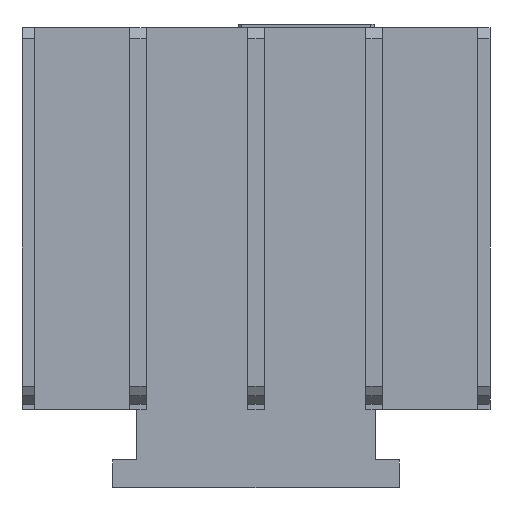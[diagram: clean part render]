
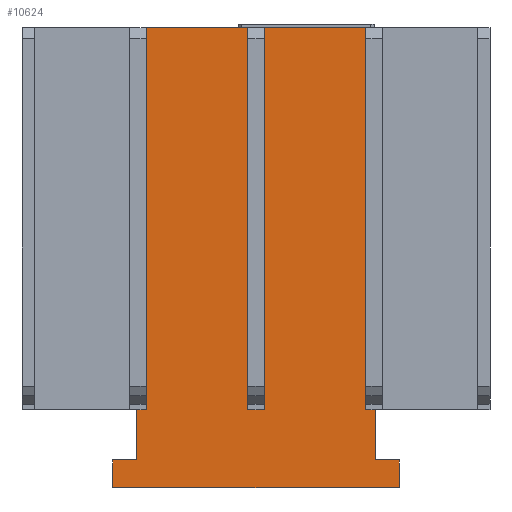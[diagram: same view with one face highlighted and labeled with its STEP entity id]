
A CAD part, front view. The second image highlights one B-rep face of the part: STEP entity #10624.
In plain terms, the highlighted planar face has unit normal (0, -1, 0).
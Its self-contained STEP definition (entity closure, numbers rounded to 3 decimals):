
#85 = EDGE_CURVE ( 'NONE', #4680, #3809, #4770, .T. ) ;
#125 = PLANE ( 'NONE',  #5802 ) ;
#131 = LINE ( 'NONE', #2143, #6633 ) ;
#174 = VECTOR ( 'NONE', #10275, 1000. ) ;
#199 = LINE ( 'NONE', #9957, #8092 ) ;
#243 = ORIENTED_EDGE ( 'NONE', *, *, #1302, .F. ) ;
#273 = ORIENTED_EDGE ( 'NONE', *, *, #3200, .F. ) ;
#341 = ORIENTED_EDGE ( 'NONE', *, *, #2364, .T. ) ;
#391 = CARTESIAN_POINT ( 'NONE',  ( 22.15, -18.658, -5.947 ) ) ;
#607 = EDGE_CURVE ( 'NONE', #10317, #9287, #4048, .T. ) ;
#642 = ORIENTED_EDGE ( 'NONE', *, *, #2946, .T. ) ;
#696 = VECTOR ( 'NONE', #10674, 1000. ) ;
#1032 = VERTEX_POINT ( 'NONE', #1633 ) ;
#1257 = EDGE_CURVE ( 'NONE', #6413, #10317, #199, .T. ) ;
#1277 = VERTEX_POINT ( 'NONE', #3793 ) ;
#1302 = EDGE_CURVE ( 'NONE', #11424, #9904, #5976, .T. ) ;
#1314 = VECTOR ( 'NONE', #5564, 1000. ) ;
#1336 = DIRECTION ( 'NONE',  ( 1., 0., 0. ) ) ;
#1370 = EDGE_CURVE ( 'NONE', #3809, #2092, #10061, .T. ) ;
#1410 = DIRECTION ( 'NONE',  ( -1., 0., 0. ) ) ;
#1426 = DIRECTION ( 'NONE',  ( 0., 0., -1. ) ) ;
#1469 = VECTOR ( 'NONE', #4100, 1000. ) ;
#1633 = CARTESIAN_POINT ( 'NONE',  ( 31.25, -18.658, -5.947 ) ) ;
#1707 = VERTEX_POINT ( 'NONE', #8796 ) ;
#1724 = LINE ( 'NONE', #4833, #9466 ) ;
#1871 = VECTOR ( 'NONE', #10602, 1000. ) ;
#1937 = LINE ( 'NONE', #8294, #6456 ) ;
#2040 = ORIENTED_EDGE ( 'NONE', *, *, #4414, .T. ) ;
#2092 = VERTEX_POINT ( 'NONE', #4876 ) ;
#2143 = CARTESIAN_POINT ( 'NONE',  ( 32.1, -18.658, -5.947 ) ) ;
#2184 = CARTESIAN_POINT ( 'NONE',  ( 10.7, -18.658, -5.947 ) ) ;
#2261 = LINE ( 'NONE', #8915, #696 ) ;
#2363 = CARTESIAN_POINT ( 'NONE',  ( 32.1, -18.658, -5.947 ) ) ;
#2364 = EDGE_CURVE ( 'NONE', #10206, #1707, #1724, .T. ) ;
#2382 = EDGE_CURVE ( 'NONE', #1277, #10206, #9340, .T. ) ;
#2491 = FACE_OUTER_BOUND ( 'NONE', #4047, .T. ) ;
#2698 = CARTESIAN_POINT ( 'NONE',  ( 8.53, -18.658, -12.947 ) ) ;
#2844 = ORIENTED_EDGE ( 'NONE', *, *, #85, .T. ) ;
#2946 = EDGE_CURVE ( 'NONE', #8197, #4634, #7789, .T. ) ;
#3005 = CARTESIAN_POINT ( 'NONE',  ( 11.55, -18.658, -5.947 ) ) ;
#3200 = EDGE_CURVE ( 'NONE', #9819, #11424, #2261, .T. ) ;
#3291 = CARTESIAN_POINT ( 'NONE',  ( 11.55, -18.658, 28.353 ) ) ;
#3297 = VECTOR ( 'NONE', #1336, 1000. ) ;
#3334 = ORIENTED_EDGE ( 'NONE', *, *, #607, .F. ) ;
#3371 = CARTESIAN_POINT ( 'NONE',  ( 31.25, -18.658, 1.753 ) ) ;
#3482 = DIRECTION ( 'NONE',  ( 0., 0., 1. ) ) ;
#3700 = CARTESIAN_POINT ( 'NONE',  ( 10.7, -18.658, -5.947 ) ) ;
#3793 = CARTESIAN_POINT ( 'NONE',  ( 34.27, -18.658, -10.447 ) ) ;
#3809 = VERTEX_POINT ( 'NONE', #7258 ) ;
#3874 = LINE ( 'NONE', #3371, #1871 ) ;
#4047 = EDGE_LOOP ( 'NONE', ( #3334, #10644, #8494, #642, #2040, #2844, #5536, #10493, #8629, #341, #9475, #8829, #243, #273, #7852, #4271 ) ) ;
#4048 = LINE ( 'NONE', #3291, #1469 ) ;
#4100 = DIRECTION ( 'NONE',  ( 1., 0., 0. ) ) ;
#4106 = CARTESIAN_POINT ( 'NONE',  ( 32.1, -18.658, -10.447 ) ) ;
#4260 = VECTOR ( 'NONE', #1410, 1000. ) ;
#4271 = ORIENTED_EDGE ( 'NONE', *, *, #8337, .T. ) ;
#4414 = EDGE_CURVE ( 'NONE', #4634, #4680, #6829, .T. ) ;
#4634 = VERTEX_POINT ( 'NONE', #9125 ) ;
#4675 = DIRECTION ( 'NONE',  ( 0., 0., 1. ) ) ;
#4680 = VERTEX_POINT ( 'NONE', #9084 ) ;
#4689 = LINE ( 'NONE', #2363, #4260 ) ;
#4759 = LINE ( 'NONE', #11511, #5319 ) ;
#4770 = LINE ( 'NONE', #5950, #6586 ) ;
#4833 = CARTESIAN_POINT ( 'NONE',  ( 32.1, -18.658, -10.447 ) ) ;
#4876 = CARTESIAN_POINT ( 'NONE',  ( 34.27, -18.658, -12.947 ) ) ;
#4901 = CARTESIAN_POINT ( 'NONE',  ( 10.7, -18.658, -10.447 ) ) ;
#5122 = VECTOR ( 'NONE', #1426, 1000. ) ;
#5319 = VECTOR ( 'NONE', #3482, 1000. ) ;
#5406 = EDGE_CURVE ( 'NONE', #1032, #9904, #3874, .T. ) ;
#5437 = VECTOR ( 'NONE', #6776, 1000. ) ;
#5486 = DIRECTION ( 'NONE',  ( 0., 0., 1. ) ) ;
#5536 = ORIENTED_EDGE ( 'NONE', *, *, #1370, .T. ) ;
#5564 = DIRECTION ( 'NONE',  ( 1., 0., 0. ) ) ;
#5628 = LINE ( 'NONE', #6209, #7309 ) ;
#5665 = CARTESIAN_POINT ( 'NONE',  ( 20.65, -18.658, -5.947 ) ) ;
#5802 = AXIS2_PLACEMENT_3D ( 'NONE', #9974, #8204, #7347 ) ;
#5842 = CARTESIAN_POINT ( 'NONE',  ( 31.25, -18.658, 28.353 ) ) ;
#5950 = CARTESIAN_POINT ( 'NONE',  ( 8.53, -18.658, -10.447 ) ) ;
#5976 = LINE ( 'NONE', #8188, #1314 ) ;
#6209 = CARTESIAN_POINT ( 'NONE',  ( 32.1, -18.658, -5.947 ) ) ;
#6413 = VERTEX_POINT ( 'NONE', #3005 ) ;
#6456 = VECTOR ( 'NONE', #6489, 1000. ) ;
#6489 = DIRECTION ( 'NONE',  ( 0., 0., 1. ) ) ;
#6569 = EDGE_CURVE ( 'NONE', #9819, #11368, #4689, .T. ) ;
#6586 = VECTOR ( 'NONE', #7799, 1000. ) ;
#6633 = VECTOR ( 'NONE', #11170, 1000. ) ;
#6776 = DIRECTION ( 'NONE',  ( -1., 0., 0. ) ) ;
#6829 = LINE ( 'NONE', #4901, #5437 ) ;
#7024 = CARTESIAN_POINT ( 'NONE',  ( 20.65, -18.658, 28.353 ) ) ;
#7050 = EDGE_CURVE ( 'NONE', #6413, #8197, #131, .T. ) ;
#7258 = CARTESIAN_POINT ( 'NONE',  ( 8.53, -18.658, -12.947 ) ) ;
#7309 = VECTOR ( 'NONE', #9790, 1000. ) ;
#7347 = DIRECTION ( 'NONE',  ( 1., 0., 0. ) ) ;
#7789 = LINE ( 'NONE', #2184, #5122 ) ;
#7799 = DIRECTION ( 'NONE',  ( 0., 0., -1. ) ) ;
#7852 = ORIENTED_EDGE ( 'NONE', *, *, #6569, .T. ) ;
#8040 = EDGE_CURVE ( 'NONE', #1707, #1032, #5628, .T. ) ;
#8092 = VECTOR ( 'NONE', #5486, 1000. ) ;
#8188 = CARTESIAN_POINT ( 'NONE',  ( 22.15, -18.658, 28.353 ) ) ;
#8197 = VERTEX_POINT ( 'NONE', #3700 ) ;
#8204 = DIRECTION ( 'NONE',  ( 0., 1., 0. ) ) ;
#8294 = CARTESIAN_POINT ( 'NONE',  ( 20.65, -18.658, 1.753 ) ) ;
#8337 = EDGE_CURVE ( 'NONE', #11368, #9287, #1937, .T. ) ;
#8477 = CARTESIAN_POINT ( 'NONE',  ( 22.15, -18.658, 28.353 ) ) ;
#8494 = ORIENTED_EDGE ( 'NONE', *, *, #7050, .T. ) ;
#8600 = CARTESIAN_POINT ( 'NONE',  ( 11.55, -18.658, 28.353 ) ) ;
#8629 = ORIENTED_EDGE ( 'NONE', *, *, #2382, .T. ) ;
#8796 = CARTESIAN_POINT ( 'NONE',  ( 32.1, -18.658, -5.947 ) ) ;
#8829 = ORIENTED_EDGE ( 'NONE', *, *, #5406, .T. ) ;
#8907 = EDGE_CURVE ( 'NONE', #2092, #1277, #4759, .T. ) ;
#8915 = CARTESIAN_POINT ( 'NONE',  ( 22.15, -18.658, 1.753 ) ) ;
#9084 = CARTESIAN_POINT ( 'NONE',  ( 8.53, -18.658, -10.447 ) ) ;
#9125 = CARTESIAN_POINT ( 'NONE',  ( 10.7, -18.658, -10.447 ) ) ;
#9287 = VERTEX_POINT ( 'NONE', #7024 ) ;
#9340 = LINE ( 'NONE', #11075, #174 ) ;
#9466 = VECTOR ( 'NONE', #4675, 1000. ) ;
#9475 = ORIENTED_EDGE ( 'NONE', *, *, #8040, .T. ) ;
#9790 = DIRECTION ( 'NONE',  ( -1., 0., 0. ) ) ;
#9819 = VERTEX_POINT ( 'NONE', #391 ) ;
#9904 = VERTEX_POINT ( 'NONE', #5842 ) ;
#9957 = CARTESIAN_POINT ( 'NONE',  ( 11.55, -18.658, 1.753 ) ) ;
#9974 = CARTESIAN_POINT ( 'NONE',  ( 11.55, -18.658, -12.439 ) ) ;
#10061 = LINE ( 'NONE', #2698, #3297 ) ;
#10206 = VERTEX_POINT ( 'NONE', #4106 ) ;
#10275 = DIRECTION ( 'NONE',  ( -1., 0., 0. ) ) ;
#10317 = VERTEX_POINT ( 'NONE', #8600 ) ;
#10493 = ORIENTED_EDGE ( 'NONE', *, *, #8907, .T. ) ;
#10602 = DIRECTION ( 'NONE',  ( 0., 0., 1. ) ) ;
#10624 = ADVANCED_FACE ( 'NONE', ( #2491 ), #125, .F. ) ;
#10644 = ORIENTED_EDGE ( 'NONE', *, *, #1257, .F. ) ;
#10674 = DIRECTION ( 'NONE',  ( 0., 0., 1. ) ) ;
#11075 = CARTESIAN_POINT ( 'NONE',  ( 34.27, -18.658, -10.447 ) ) ;
#11170 = DIRECTION ( 'NONE',  ( -1., 0., 0. ) ) ;
#11368 = VERTEX_POINT ( 'NONE', #5665 ) ;
#11424 = VERTEX_POINT ( 'NONE', #8477 ) ;
#11511 = CARTESIAN_POINT ( 'NONE',  ( 34.27, -18.658, -12.947 ) ) ;
